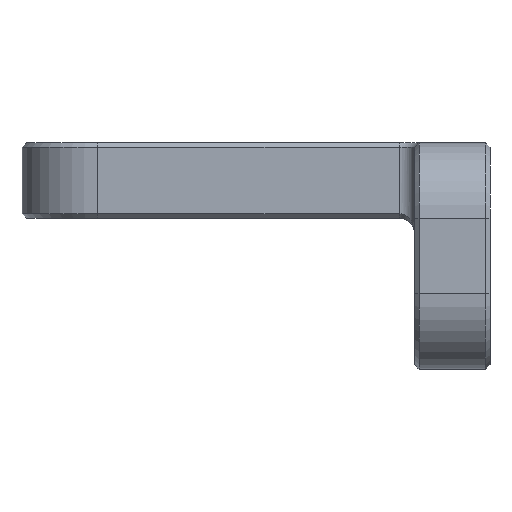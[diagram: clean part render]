
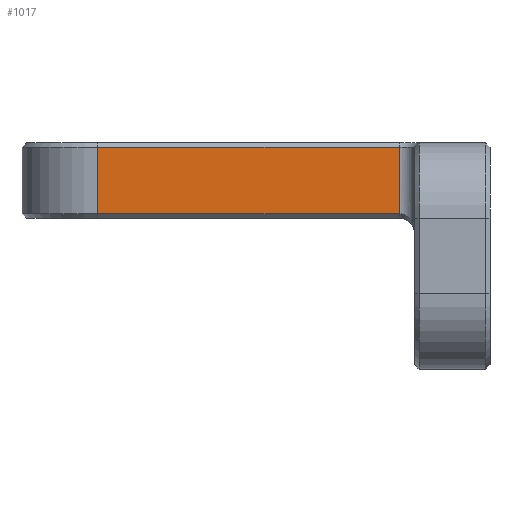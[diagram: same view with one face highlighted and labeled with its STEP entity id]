
A CAD part, front view. The second image highlights one B-rep face of the part: STEP entity #1017.
In plain terms, the highlighted planar face has unit normal (0, -1, 0).
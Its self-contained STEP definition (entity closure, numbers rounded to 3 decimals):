
#111 = PLANE ( 'NONE',  #3358 ) ;
#373 = CARTESIAN_POINT ( 'NONE',  ( 12., -20., 4.7 ) ) ;
#491 = VECTOR ( 'NONE', #1642, 1000. ) ;
#848 = CARTESIAN_POINT ( 'NONE',  ( -8., -20., 5. ) ) ;
#887 = EDGE_CURVE ( 'NONE', #3699, #5457, #1397, .T. ) ;
#1017 = ADVANCED_FACE ( 'NONE', ( #3800 ), #111, .F. ) ;
#1069 = EDGE_CURVE ( 'NONE', #2641, #3699, #1551, .T. ) ;
#1108 = EDGE_CURVE ( 'NONE', #5457, #3284, #1187, .T. ) ;
#1187 = LINE ( 'NONE', #5728, #491 ) ;
#1217 = LINE ( 'NONE', #848, #2417 ) ;
#1274 = DIRECTION ( 'NONE',  ( 0., 0., -1. ) ) ;
#1290 = EDGE_LOOP ( 'NONE', ( #5486, #3696, #4878, #3895 ) ) ;
#1397 = LINE ( 'NONE', #1424, #5919 ) ;
#1424 = CARTESIAN_POINT ( 'NONE',  ( 12., -20., 5. ) ) ;
#1520 = DIRECTION ( 'NONE',  ( 0., 1., 0. ) ) ;
#1551 = LINE ( 'NONE', #2205, #2792 ) ;
#1642 = DIRECTION ( 'NONE',  ( -1., 0., 0. ) ) ;
#2205 = CARTESIAN_POINT ( 'NONE',  ( -13., -20., 0.3 ) ) ;
#2417 = VECTOR ( 'NONE', #1274, 1000. ) ;
#2641 = VERTEX_POINT ( 'NONE', #5630 ) ;
#2792 = VECTOR ( 'NONE', #5762, 1000. ) ;
#2872 = CARTESIAN_POINT ( 'NONE',  ( -13., -20., 5. ) ) ;
#3257 = DIRECTION ( 'NONE',  ( 0., 0., 1. ) ) ;
#3284 = VERTEX_POINT ( 'NONE', #5273 ) ;
#3358 = AXIS2_PLACEMENT_3D ( 'NONE', #2872, #1520, #3410 ) ;
#3410 = DIRECTION ( 'NONE',  ( 0., 0., 1. ) ) ;
#3696 = ORIENTED_EDGE ( 'NONE', *, *, #1069, .T. ) ;
#3699 = VERTEX_POINT ( 'NONE', #3954 ) ;
#3800 = FACE_OUTER_BOUND ( 'NONE', #1290, .T. ) ;
#3895 = ORIENTED_EDGE ( 'NONE', *, *, #1108, .T. ) ;
#3954 = CARTESIAN_POINT ( 'NONE',  ( 12., -20., 0.3 ) ) ;
#4099 = EDGE_CURVE ( 'NONE', #3284, #2641, #1217, .T. ) ;
#4878 = ORIENTED_EDGE ( 'NONE', *, *, #887, .T. ) ;
#5273 = CARTESIAN_POINT ( 'NONE',  ( -8., -20., 4.7 ) ) ;
#5457 = VERTEX_POINT ( 'NONE', #373 ) ;
#5486 = ORIENTED_EDGE ( 'NONE', *, *, #4099, .T. ) ;
#5630 = CARTESIAN_POINT ( 'NONE',  ( -8., -20., 0.3 ) ) ;
#5728 = CARTESIAN_POINT ( 'NONE',  ( -8., -20., 4.7 ) ) ;
#5762 = DIRECTION ( 'NONE',  ( 1., 0., 0. ) ) ;
#5919 = VECTOR ( 'NONE', #3257, 1000. ) ;
